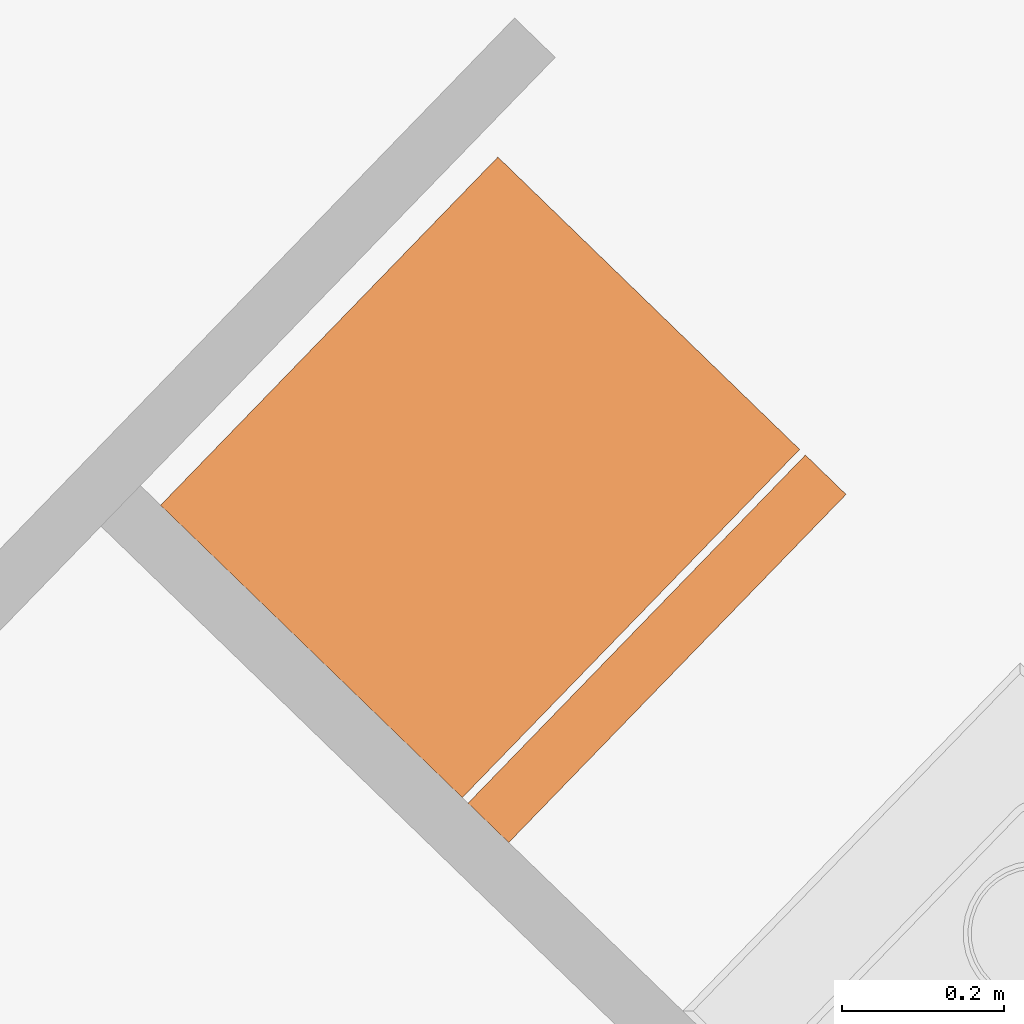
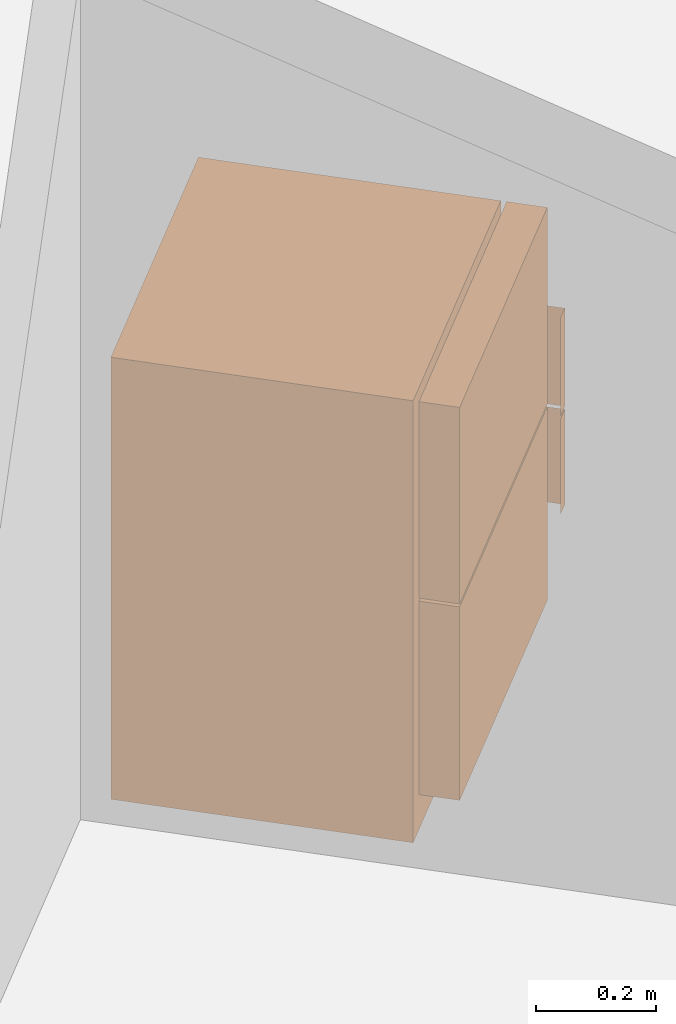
# One storey, part 112 of 121: 1 proxy.
"""IFC2X3 building model written with IfcOpenShell, lengths in metres."""

from ifc_helpers import new_model, entity, si_unit, converted_unit, derived_unit, money_unit, direction, frame, origin_with_axes, place, context, subcontext, project, spatial, open_shell, faceted_brep, surface_model, source, transform, mapped, type_object, element, save


model = new_model("IFC2X3")

# Units and contexts
model_context = context("Model", 3, precision=1e-05, world=origin_with_axes(), true_north=direction((0.0, 1.0)))
body_context = subcontext(model_context, "Body", "Model", "MODEL_VIEW")
ifc_project = project(units=[si_unit("LENGTHUNIT", "METRE"), si_unit("AREAUNIT", "SQUARE_METRE"), si_unit("VOLUMEUNIT", "CUBIC_METRE"), converted_unit("PLANEANGLEUNIT", "DEGREE", entity("IfcPlaneAngleMeasure", 0.0174532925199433), si_unit("PLANEANGLEUNIT", "RADIAN"), dimensions=[0, 0, 0, 0, 0, 0, 0]), money_unit("CHF"), converted_unit("TIMEUNIT", "Year", entity("IfcTimeMeasure", 31557600.0), si_unit("TIMEUNIT", "SECOND"), dimensions=[0, 0, 1, 0, 0, 0, 0]), si_unit("MASSUNIT", "GRAM", prefix="KILO"), si_unit("THERMODYNAMICTEMPERATUREUNIT", "DEGREE_CELSIUS"), si_unit("LUMINOUSINTENSITYUNIT", "LUMEN"), si_unit("ENERGYUNIT", "JOULE", prefix="MEGA"), derived_unit("THERMALCONDUCTANCEUNIT", [(si_unit("POWERUNIT", "WATT"), 1), (si_unit("LENGTHUNIT", "METRE"), -1), (si_unit("THERMODYNAMICTEMPERATUREUNIT", "KELVIN"), -1)]), derived_unit("SPECIFICHEATCAPACITYUNIT", [(si_unit("ENERGYUNIT", "JOULE"), 1), (si_unit("MASSUNIT", "GRAM", prefix="KILO"), -1), (si_unit("THERMODYNAMICTEMPERATUREUNIT", "KELVIN"), -1)]), derived_unit("MASSDENSITYUNIT", [(si_unit("MASSUNIT", "GRAM", prefix="KILO"), 1), (si_unit("VOLUMEUNIT", "CUBIC_METRE"), -1)])], contexts=[model_context])

# Site, building, storey
site_placement = place(None, origin_with_axes())
site = spatial("IfcSite", under=ifc_project, at=site_placement, Name="Site", CompositionType="ELEMENT")
building_placement = place(site_placement, origin_with_axes())
building = spatial("IfcBuilding", under=site, at=building_placement, Name="Bâtiment", CompositionType="ELEMENT")
storey_placement = place(building_placement, frame((0.0, 0.0, 2.75), z_axis=(0.0, 0.0, 1.0), x_axis=(1.0, 0.0, 0.0)))
storey = spatial("IfcBuildingStorey", under=building, at=storey_placement, Name="Etage 1", CompositionType="ELEMENT", Elevation=2.75)

# Proxy
building_element_proxy_type = type_object("IfcBuildingElementProxyType", PredefinedType="NOTDEFINED")
shared_shape = source(origin_with_axes(), body_context, "Body", "SurfaceModel", [
    faceted_brep([(0.0, 0.08, 0.1), (0.6, 0.08, 0.1), (0.6, 0.08, 0.9), (0.0, 0.08, 0.9), (0.0, 0.6, 0.1), (0.6, 0.6, 0.1), (0.6, 0.6, 0.9), (0.0, 0.6, 0.9)], [[[0, 1, 2, 3]], [[0, 4, 5, 1]], [[1, 5, 6, 2]], [[3, 2, 6, 7]], [[4, 0, 3, 7]], [[5, 4, 7, 6]]]),
    faceted_brep([(0.0, 0.08, 0.0), (0.6, 0.08, 0.0), (0.6, 0.08, 0.1), (0.0, 0.08, 0.1), (0.0, 0.6, 0.0), (0.6, 0.6, 0.0), (0.6, 0.6, 0.1), (0.0, 0.6, 0.1)], [[[0, 1, 2, 3]], [[0, 4, 5, 1]], [[1, 5, 6, 2]], [[3, 2, 6, 7]], [[4, 0, 3, 7]], [[5, 4, 7, 6]]]),
    faceted_brep([(0.0, 0.07, 0.1), (0.6, 0.07, 0.1), (0.6, 0.0, 0.1), (0.0, 0.0, 0.1), (0.0, 0.07000000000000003, 0.494), (0.6, 0.07000000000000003, 0.494), (0.6, 0.0, 0.494), (0.0, 0.0, 0.494)], [[[0, 1, 2, 3]], [[0, 4, 5, 1]], [[1, 5, 6, 2]], [[3, 2, 6, 7]], [[4, 0, 3, 7]], [[5, 4, 7, 6]]]),
    faceted_brep([(0.0, 0.07, 0.5), (0.6, 0.07, 0.5), (0.6, 0.0, 0.5), (0.0, 0.0, 0.5), (0.0, 0.07000000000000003, 0.9), (0.6, 0.07000000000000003, 0.9), (0.6, 0.0, 0.9), (0.0, 0.0, 0.9)], [[[0, 1, 2, 3]], [[0, 4, 5, 1]], [[1, 5, 6, 2]], [[3, 2, 6, 7]], [[4, 0, 3, 7]], [[5, 4, 7, 6]]]),
    surface_model("IfcShellBasedSurfaceModel", [(0.6, -0.03, 0.3), (0.6, -0.03, 0.4940000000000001), (0.6, 0.0, 0.4940000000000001), (0.6, 0.0, 0.3)], [open_shell([[[0, 1, 2, 3]]])]),
    surface_model("IfcShellBasedSurfaceModel", [(0.6, -0.03, 0.3), (0.6, -0.03, 0.4940000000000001), (0.57, -0.03, 0.4940000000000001), (0.57, -0.03, 0.3)], [open_shell([[[0, 1, 2, 3]]])]),
    surface_model("IfcShellBasedSurfaceModel", [(0.6, -0.03, 0.5), (0.6, -0.03, 0.7), (0.6, 0.0, 0.7), (0.6, 0.0, 0.5)], [open_shell([[[0, 1, 2, 3]]])]),
    surface_model("IfcShellBasedSurfaceModel", [(0.6, -0.03, 0.5), (0.6, -0.03, 0.7), (0.57, -0.03, 0.7), (0.57, -0.03, 0.5)], [open_shell([[[0, 1, 2, 3]]])]),
])
proxy_placement = place(storey_placement, frame((9527.544324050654, -1064.000677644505, 57.7), z_axis=(0.0, 0.0, 1.0), x_axis=(0.6958610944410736, 0.7181763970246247, 0.0)))
element("IfcBuildingElementProxy", 1, at=proxy_placement, inside=storey, type_object=building_element_proxy_type, Name="Obj.-019", context=body_context, shape_type="MappedRepresentation", body=[
    mapped(shared_shape, transform((0.0, 0.0, 0.0))),
])

save(model, "model.ifc")
